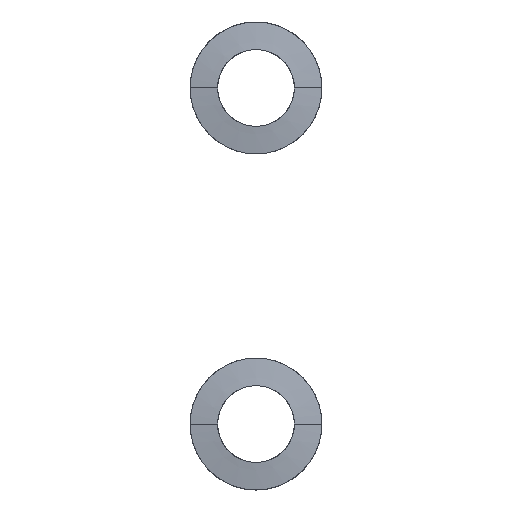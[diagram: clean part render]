
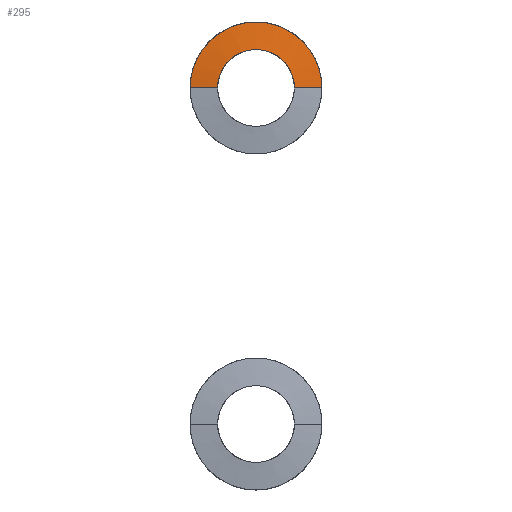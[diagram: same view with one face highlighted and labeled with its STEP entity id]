
A CAD part, left-side view. The second image highlights one B-rep face of the part: STEP entity #295.
In plain terms, the highlighted free-form (B-spline) face has degree [1, 2] with [2, 9] control points.
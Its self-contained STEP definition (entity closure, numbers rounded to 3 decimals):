
#295=ADVANCED_FACE('',(#319),#1135,.T.);
#319=FACE_OUTER_BOUND('',#343,.T.);
#343=EDGE_LOOP('',(#385,#386,#387,#388));
#385=ORIENTED_EDGE('',*,*,#817,.T.);
#386=ORIENTED_EDGE('',*,*,#818,.T.);
#387=ORIENTED_EDGE('',*,*,#819,.T.);
#388=ORIENTED_EDGE('',*,*,#820,.T.);
#469=(
BOUNDED_CURVE()
B_SPLINE_CURVE(2,(#1499,#1500,#1501,#1502,#1503),.UNSPECIFIED.,.F.,.F.)
B_SPLINE_CURVE_WITH_KNOTS((3,2,3),(1.,2.571,4.142),
 .UNSPECIFIED.)
CURVE()
GEOMETRIC_REPRESENTATION_ITEM()
RATIONAL_B_SPLINE_CURVE((1.,0.707,1.,0.707,1.))
REPRESENTATION_ITEM('')
);
#470=(
BOUNDED_CURVE()
B_SPLINE_CURVE(2,(#1510,#1511,#1512,#1513,#1514),.UNSPECIFIED.,.F.,.F.)
B_SPLINE_CURVE_WITH_KNOTS((3,2,3),(5.142,6.712,8.283),
 .UNSPECIFIED.)
CURVE()
GEOMETRIC_REPRESENTATION_ITEM()
RATIONAL_B_SPLINE_CURVE((1.,0.707,1.,0.707,1.))
REPRESENTATION_ITEM('')
);
#529=PCURVE('',#1135,#625);
#530=PCURVE('',#1135,#626);
#531=PCURVE('',#1135,#627);
#532=PCURVE('',#1135,#628);
#625=DEFINITIONAL_REPRESENTATION('',(#926),#2269);
#626=DEFINITIONAL_REPRESENTATION('',(#927),#2269);
#627=DEFINITIONAL_REPRESENTATION('',(#929),#2269);
#628=DEFINITIONAL_REPRESENTATION('',(#930),#2269);
#721=SURFACE_CURVE('',#925,(#529),.PCURVE_S1.);
#722=SURFACE_CURVE('',#469,(#530),.PCURVE_S1.);
#723=SURFACE_CURVE('',#928,(#531),.PCURVE_S1.);
#724=SURFACE_CURVE('',#470,(#532),.PCURVE_S1.);
#817=EDGE_CURVE('',#1057,#1058,#721,.T.);
#818=EDGE_CURVE('',#1058,#1060,#722,.T.);
#819=EDGE_CURVE('',#1060,#1059,#723,.T.);
#820=EDGE_CURVE('',#1059,#1057,#724,.T.);
#925=B_SPLINE_CURVE_WITH_KNOTS('',1,(#1495,#1496),.UNSPECIFIED.,.F.,.F.,
(2,2),(0.,1.),.UNSPECIFIED.);
#926=B_SPLINE_CURVE_WITH_KNOTS('',1,(#1497,#1498),.UNSPECIFIED.,.F.,.F.,
(2,2),(0.,1.),.UNSPECIFIED.);
#927=B_SPLINE_CURVE_WITH_KNOTS('',1,(#1504,#1505),.UNSPECIFIED.,.F.,.F.,
(2,2),(1.,4.142),.UNSPECIFIED.);
#928=B_SPLINE_CURVE_WITH_KNOTS('',1,(#1506,#1507),.UNSPECIFIED.,.F.,.F.,
(2,2),(4.142,5.142),.UNSPECIFIED.);
#929=B_SPLINE_CURVE_WITH_KNOTS('',1,(#1508,#1509),.UNSPECIFIED.,.F.,.F.,
(2,2),(4.142,5.142),.UNSPECIFIED.);
#930=B_SPLINE_CURVE_WITH_KNOTS('',1,(#1515,#1516),.UNSPECIFIED.,.F.,.F.,
(2,2),(5.142,8.283),.UNSPECIFIED.);
#1057=VERTEX_POINT('',#1491);
#1058=VERTEX_POINT('',#1492);
#1059=VERTEX_POINT('',#1493);
#1060=VERTEX_POINT('',#1494);
#1135=(
BOUNDED_SURFACE()
B_SPLINE_SURFACE(1,2,((#1473,#1474,#1475,#1476,#1477,#1478,#1479,#1480,#1481),
(#1482,#1483,#1484,#1485,#1486,#1487,#1488,#1489,#1490)),.UNSPECIFIED.,.F.,
 .F.,.F.)
B_SPLINE_SURFACE_WITH_KNOTS((2,2),(3,2,2,2,3),(0.,1.),(0.,1.571,
3.142,4.712,6.283),.UNSPECIFIED.)
GEOMETRIC_REPRESENTATION_ITEM()
RATIONAL_B_SPLINE_SURFACE(((1.,0.707,1.,0.707,1.,
0.707,1.,0.707,1.),(1.,0.707,1.,0.707,
1.,0.707,1.,0.707,1.)))
REPRESENTATION_ITEM('')
SURFACE()
);
#1473=CARTESIAN_POINT('',(-495.209,20.,17.017));
#1474=CARTESIAN_POINT('',(-495.209,20.,17.017));
#1475=CARTESIAN_POINT('',(-495.209,20.,17.017));
#1476=CARTESIAN_POINT('',(-495.209,20.,17.017));
#1477=CARTESIAN_POINT('',(-495.209,20.,17.017));
#1478=CARTESIAN_POINT('',(-495.209,20.,17.017));
#1479=CARTESIAN_POINT('',(-495.209,20.,17.017));
#1480=CARTESIAN_POINT('',(-495.209,20.,17.017));
#1481=CARTESIAN_POINT('',(-495.209,20.,17.017));
#1482=CARTESIAN_POINT('',(-494.701,16.111,17.017));
#1483=CARTESIAN_POINT('',(-494.701,16.111,13.128));
#1484=CARTESIAN_POINT('',(-494.701,20.,13.128));
#1485=CARTESIAN_POINT('',(-494.701,23.889,13.128));
#1486=CARTESIAN_POINT('',(-494.701,23.889,17.017));
#1487=CARTESIAN_POINT('',(-494.701,23.889,20.906));
#1488=CARTESIAN_POINT('',(-494.701,20.,20.906));
#1489=CARTESIAN_POINT('',(-494.701,16.111,20.906));
#1490=CARTESIAN_POINT('',(-494.701,16.111,17.017));
#1491=CARTESIAN_POINT('',(-494.85,17.25,17.017));
#1492=CARTESIAN_POINT('',(-495.,18.4,17.017));
#1493=CARTESIAN_POINT('',(-494.85,22.75,17.017));
#1494=CARTESIAN_POINT('',(-495.,21.6,17.017));
#1495=CARTESIAN_POINT('',(-494.85,17.25,17.017));
#1496=CARTESIAN_POINT('',(-495.,18.4,17.017));
#1497=CARTESIAN_POINT('',(0.707,6.283));
#1498=CARTESIAN_POINT('',(0.411,6.283));
#1499=CARTESIAN_POINT('',(-495.,18.4,17.017));
#1500=CARTESIAN_POINT('',(-495.,18.4,18.617));
#1501=CARTESIAN_POINT('',(-495.,20.,18.617));
#1502=CARTESIAN_POINT('',(-495.,21.6,18.617));
#1503=CARTESIAN_POINT('',(-495.,21.6,17.017));
#1504=CARTESIAN_POINT('',(0.411,6.283));
#1505=CARTESIAN_POINT('',(0.411,3.142));
#1506=CARTESIAN_POINT('',(-495.,21.6,17.017));
#1507=CARTESIAN_POINT('',(-494.85,22.75,17.017));
#1508=CARTESIAN_POINT('',(0.411,3.142));
#1509=CARTESIAN_POINT('',(0.707,3.142));
#1510=CARTESIAN_POINT('',(-494.85,22.75,17.017));
#1511=CARTESIAN_POINT('',(-494.85,22.75,19.767));
#1512=CARTESIAN_POINT('',(-494.85,20.,19.767));
#1513=CARTESIAN_POINT('',(-494.85,17.25,19.767));
#1514=CARTESIAN_POINT('',(-494.85,17.25,17.017));
#1515=CARTESIAN_POINT('',(0.707,3.142));
#1516=CARTESIAN_POINT('',(0.707,6.283));
#2269=(
GEOMETRIC_REPRESENTATION_CONTEXT(2)
PARAMETRIC_REPRESENTATION_CONTEXT()
REPRESENTATION_CONTEXT('pspace','')
);
